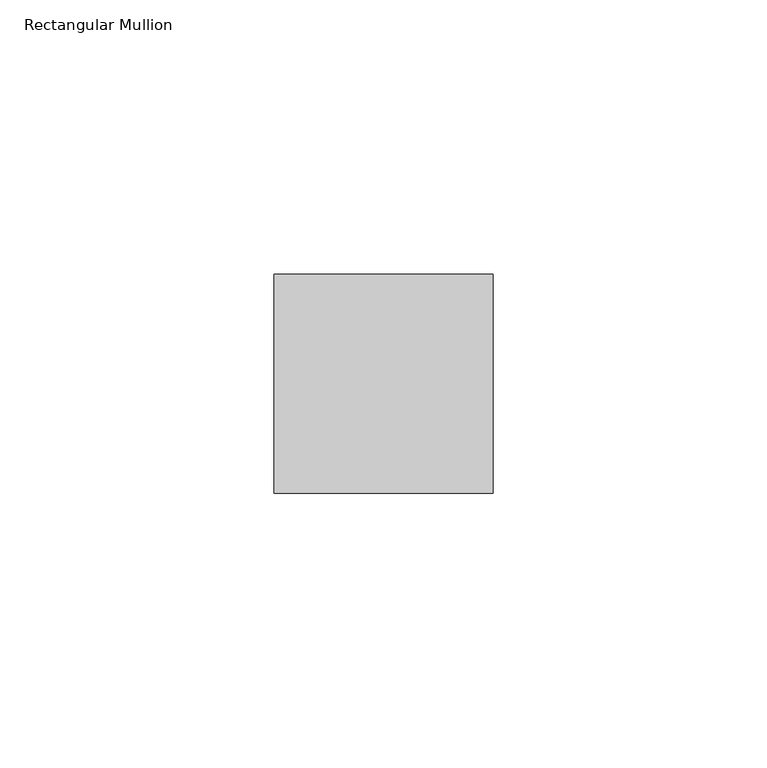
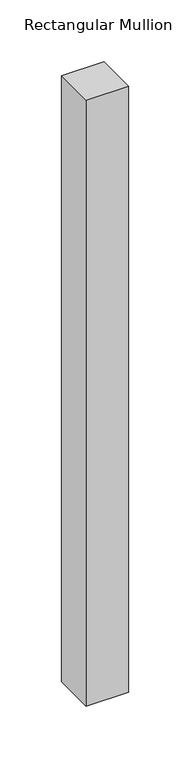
"""IFC4 building model written with IfcOpenShell, lengths in millimetres: member geometry, Rectangular Mullion : Danpal_TP_Interal-Hor-Mullion."""

from ifc_helpers import new_model, si_unit, frame, origin, place, context, project, spatial, polyline, outline, extrude, source, transform, mapped, element, save


def rectangular_mullion_be314c14(model_context):
    return source(origin(), model_context, "Body", "SweptSolid", [
        extrude(outline(polyline([(0.0, 104.1621721), (0.0, 64.1621721), (-40.0, 64.1621721), (-40.0, 104.1621721), (0.0, 104.1621721)])), frame((0.0, 0.0, -601.0), z_axis=(0.0, 0.0, 1.0), x_axis=(1.0, 0.0, 0.0)), (0.0, 0.0, 1.0), 601.0),
    ])


if __name__ == "__main__":
    model = new_model("IFC4")
    model_context = context("Model", 3, world=origin())
    ifc_project = project(units=[si_unit("LENGTHUNIT", "METRE", prefix="MILLI")], contexts=[model_context])
    site = spatial("IfcSite", under=ifc_project)
    building = spatial("IfcBuilding", under=site)
    placement = place(None, origin())
    rectangular_mullion_shape = rectangular_mullion_be314c14(model_context)
    element("IfcMember", 1, ObjectType="Rectangular Mullion : Danpal_TP_Interal-Hor-Mullion", at=placement, inside=building, context=model_context, shape_type="MappedRepresentation", body=[
        mapped(rectangular_mullion_shape, transform((0.0, 0.0, 0.0), x_axis=(1.0, 0.0, 0.0), y_axis=(0.0, 1.0, 0.0), z_axis=(0.0, 0.0, 1.0))),
    ])
    save(model, "model.ifc")
